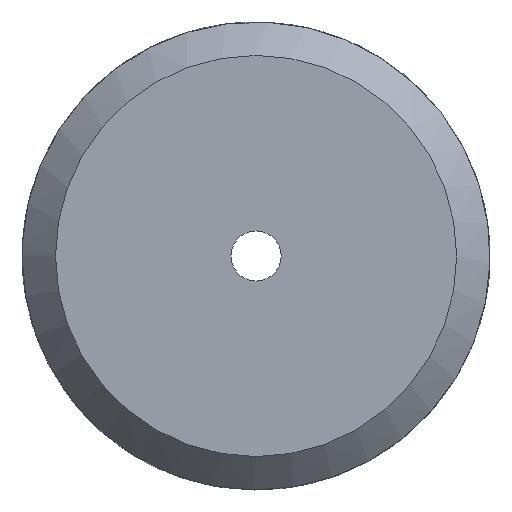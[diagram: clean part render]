
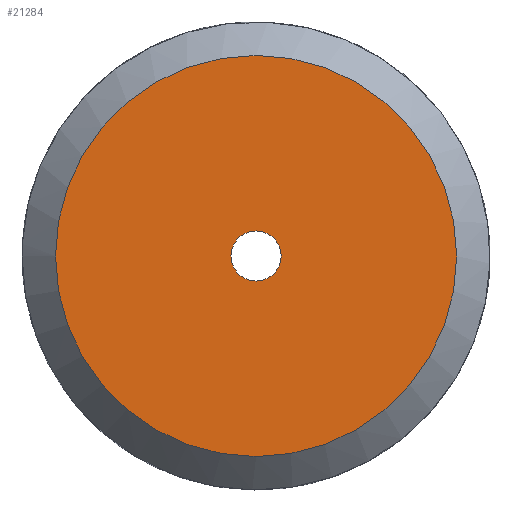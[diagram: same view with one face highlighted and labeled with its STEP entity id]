
A CAD part, left-side view. The second image highlights one B-rep face of the part: STEP entity #21284.
In plain terms, the highlighted planar face has unit normal (-1, 0, 0).
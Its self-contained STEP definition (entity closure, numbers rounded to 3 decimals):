
#7714=ORIENTED_EDGE('',*,*,#8877,.F.);
#7715=ORIENTED_EDGE('',*,*,#8878,.F.);
#7874=CIRCLE('',#21096,6.);
#7875=CIRCLE('',#21098,0.75);
#8287=VERTEX_POINT('',#20779);
#8288=VERTEX_POINT('',#20782);
#8877=EDGE_CURVE('',#8287,#8287,#7874,.T.);
#8878=EDGE_CURVE('',#8288,#8288,#7875,.T.);
#9062=EDGE_LOOP('',(#7714));
#9063=EDGE_LOOP('',(#7715));
#9249=FACE_BOUND('',#9062,.T.);
#9250=FACE_BOUND('',#9063,.T.);
#9871=DIRECTION('',(1.,0.,0.));
#9872=DIRECTION('',(0.,0.,-6.));
#9873=DIRECTION('',(-1.,0.,0.));
#9874=DIRECTION('',(0.,1.,0.));
#9875=DIRECTION('',(-1.,0.,0.));
#9876=DIRECTION('',(0.,-0.75,0.));
#20779=CARTESIAN_POINT('',(0.,0.,-6.));
#20780=CARTESIAN_POINT('',(0.,0.,0.));
#20781=CARTESIAN_POINT('',(0.,0.,0.));
#20782=CARTESIAN_POINT('',(0.,-0.75,0.));
#20783=CARTESIAN_POINT('',(0.,0.,0.));
#21096=AXIS2_PLACEMENT_3D('',#20780,#9871,#9872);
#21097=AXIS2_PLACEMENT_3D('',#20781,#9873,#9874);
#21098=AXIS2_PLACEMENT_3D('',#20783,#9875,#9876);
#21103=PLANE('',#21097);
#21284=ADVANCED_FACE('',(#9249,#9250),#21103,.T.);
